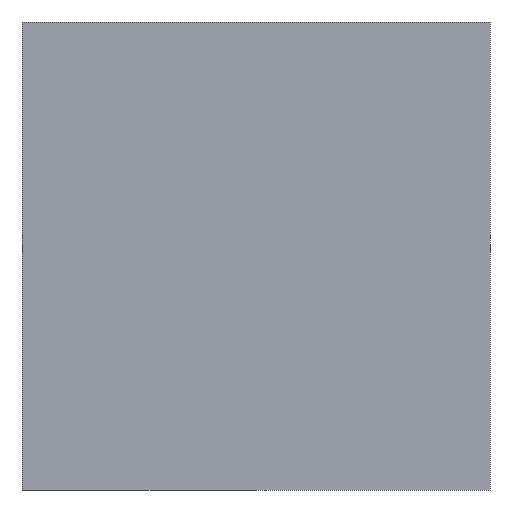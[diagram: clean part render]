
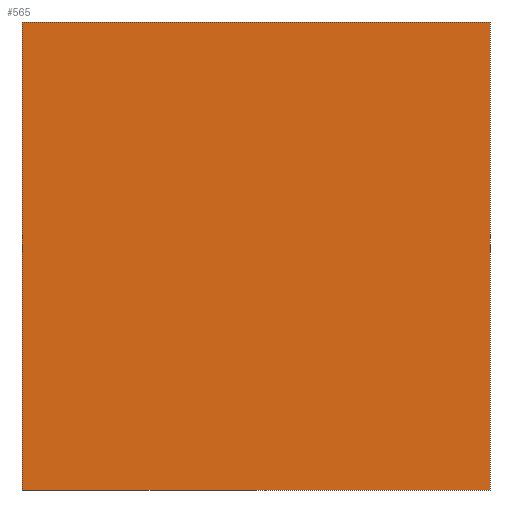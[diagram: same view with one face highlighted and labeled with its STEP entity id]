
A CAD part, left-side view. The second image highlights one B-rep face of the part: STEP entity #565.
In plain terms, the highlighted planar face has unit normal (-1, 0, 0).
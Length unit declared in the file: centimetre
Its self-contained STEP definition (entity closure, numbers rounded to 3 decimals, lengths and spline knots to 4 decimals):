
#11 = VECTOR ( 'NONE', #350, 100. ) ;
#33 = EDGE_LOOP ( 'NONE', ( #652, #356, #306, #165 ) ) ;
#74 = DIRECTION ( 'NONE',  ( 0., 0., -1. ) ) ;
#100 = FACE_OUTER_BOUND ( 'NONE', #33, .T. ) ;
#145 = VERTEX_POINT ( 'NONE', #324 ) ;
#165 = ORIENTED_EDGE ( 'NONE', *, *, #506, .T. ) ;
#169 = DIRECTION ( 'NONE',  ( 0., 0., -1. ) ) ;
#180 = LINE ( 'NONE', #292, #531 ) ;
#205 = CARTESIAN_POINT ( 'NONE',  ( 0., 1000., 1000. ) ) ;
#217 = DIRECTION ( 'NONE',  ( 1., 0., 0. ) ) ;
#229 = VECTOR ( 'NONE', #274, 100. ) ;
#274 = DIRECTION ( 'NONE',  ( 0., -1., 0. ) ) ;
#292 = CARTESIAN_POINT ( 'NONE',  ( 0., 0., 1000. ) ) ;
#297 = VERTEX_POINT ( 'NONE', #677 ) ;
#300 = CARTESIAN_POINT ( 'NONE',  ( 0., 0., 1000. ) ) ;
#306 = ORIENTED_EDGE ( 'NONE', *, *, #710, .F. ) ;
#324 = CARTESIAN_POINT ( 'NONE',  ( 0., 0., 0. ) ) ;
#350 = DIRECTION ( 'NONE',  ( 0., -1., 0. ) ) ;
#356 = ORIENTED_EDGE ( 'NONE', *, *, #654, .F. ) ;
#357 = CARTESIAN_POINT ( 'NONE',  ( 0., 1000., 1000. ) ) ;
#361 = AXIS2_PLACEMENT_3D ( 'NONE', #205, #217, #169 ) ;
#391 = CARTESIAN_POINT ( 'NONE',  ( 0., 1000., 0. ) ) ;
#410 = VERTEX_POINT ( 'NONE', #357 ) ;
#426 = PLANE ( 'NONE',  #361 ) ;
#459 = LINE ( 'NONE', #591, #11 ) ;
#483 = VECTOR ( 'NONE', #512, 100. ) ;
#506 = EDGE_CURVE ( 'NONE', #410, #297, #690, .T. ) ;
#512 = DIRECTION ( 'NONE',  ( 0., 0., -1. ) ) ;
#531 = VECTOR ( 'NONE', #74, 100. ) ;
#565 = ADVANCED_FACE ( 'NONE', ( #100 ), #426, .F. ) ;
#572 = EDGE_CURVE ( 'NONE', #297, #145, #665, .T. ) ;
#591 = CARTESIAN_POINT ( 'NONE',  ( 0., 1000., 1000. ) ) ;
#607 = CARTESIAN_POINT ( 'NONE',  ( 0., 1000., 1000. ) ) ;
#646 = VERTEX_POINT ( 'NONE', #300 ) ;
#652 = ORIENTED_EDGE ( 'NONE', *, *, #572, .T. ) ;
#654 = EDGE_CURVE ( 'NONE', #646, #145, #180, .T. ) ;
#665 = LINE ( 'NONE', #391, #229 ) ;
#677 = CARTESIAN_POINT ( 'NONE',  ( 0., 1000., 0. ) ) ;
#690 = LINE ( 'NONE', #607, #483 ) ;
#710 = EDGE_CURVE ( 'NONE', #410, #646, #459, .T. ) ;
